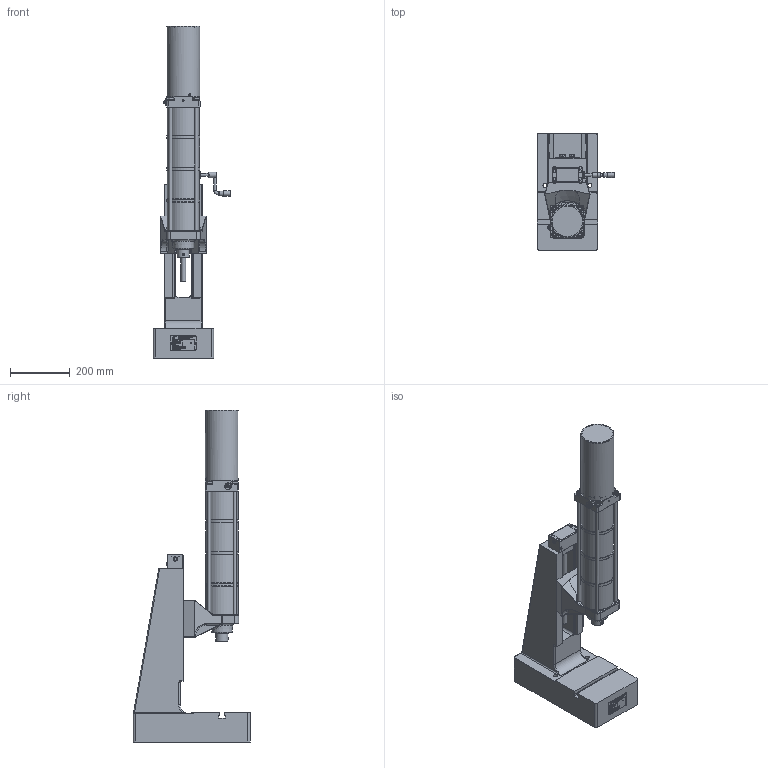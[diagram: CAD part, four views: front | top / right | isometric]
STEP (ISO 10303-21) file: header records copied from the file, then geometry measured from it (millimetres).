
FILE_DESCRIPTION(/* description */ ('Bausatz Ständer T4N HV-OST'),/* implementation_level */ '2;1');
FILE_NAME(/* name */ 'B:\02_CAD_oeffentlich\CAD_3D_oeffentlich_step\Druckluftpresse\DRP_1700_060_130.stp',/* time_stamp */ '2017-08-25T09:31:02+02:00',/* author */ ('Finsterle'),/* organization */ (''),/* preprocessor_version */ 'ST-DEVELOPER v16.1',/* originating_system */ 'Autodesk Inventor 2016',/* authorisation */ '');
FILE_SCHEMA (('AUTOMOTIVE_DESIGN { 1 0 10303 214 3 1 1 }'));
Products named in the file (5): ENG-000753-1_V; ENG-001117_V; HBF-000760; ENG-000755; HBF-001066_V
Assembly tree (5 placements, depth 2):
  HBF-001066_V
    ENG-000753-1_V
    ENG-001117_V
    HBF-000760
    ENG-000755  x2
Bounding box: 259.79 x 393.8 x 1110.22 mm (x, y, z)
Volume: 12217810.5 mm3; surface area: 1705165.2 mm2
Topology: 6 solids, 16 shells, 7637 faces, 20686 edges, 13512 vertices
Faces by surface type: plane 4608, bspline 2104, cylinder 485, cone 246, torus 119, sphere 75
Full cylindrical faces by diameter (mm): 1 x1, 2 x1, 2.4 x3, 2.459 x2, 3 x7, 3.242 x7, 3.5 x2, 3.65 x4, 4 x6, 4.134 x1, 4.5 x4, 4.917 x6, 5 x3, 6.2 x4, 6.5 x2, 6.647 x1, 8 x7, 8.4 x1, 8.5 x1, 10 x7, 10.02 x1, 10.106 x2, 10.5 x12, 11.8 x2, 12 x7, 13 x4, 13.5 x4, 14 x3, 14.376 x2, 14.95 x3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
Entity records: 259158 total; most frequent: CARTESIAN_POINT 76086, ORIENTED_EDGE 40142, DIRECTION 28154, EDGE_CURVE 20058, LINE 13986, VECTOR 13986, VERTEX_POINT 13382, EDGE_LOOP 8634
